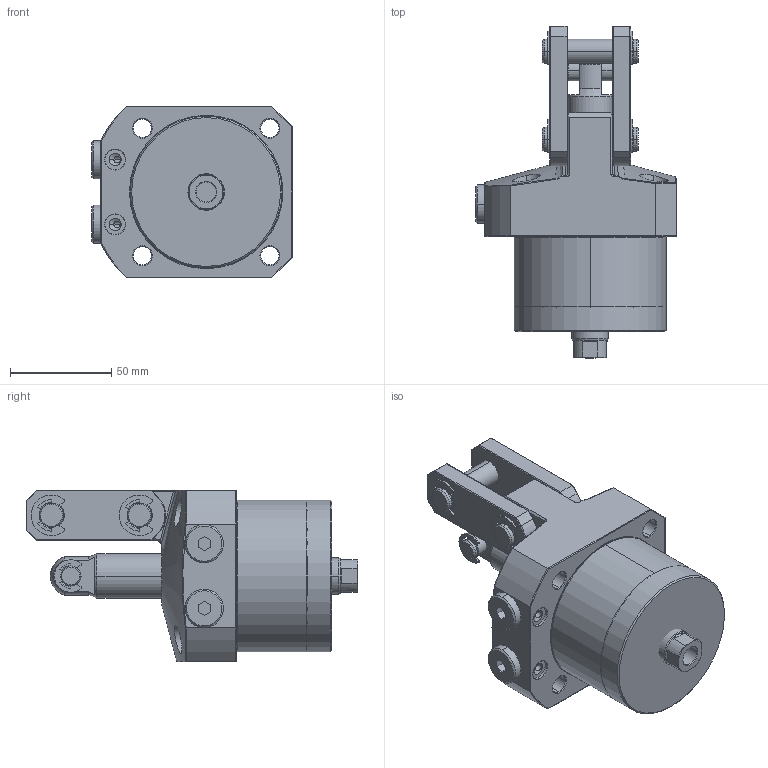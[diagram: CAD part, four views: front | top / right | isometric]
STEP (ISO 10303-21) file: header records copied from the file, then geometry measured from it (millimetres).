
FILE_DESCRIPTION(/* description */ (''),/* implementation_level */ '2;1');
FILE_NAME(/* name */ 'KTPC75-RD.stp',/* time_stamp */ '2022-11-19T08:42:04+08:00',/* author */ (''),/* organization */ (''),/* preprocessor_version */ 'ST-DEVELOPER v16.7',/* originating_system */ 'SIEMENS PLM Software NX 12.0',/* authorisation */ '');
FILE_SCHEMA (('AP203_CONFIGURATION_CONTROLLED_3D_DESIGN_OF_MECHANICAL_PARTS_AND_ASSEMBLIES_MIM_LF { 1 0 10303 403 2 1 2}'));
Length unit declared in the file: millimetre
Products named in the file (10): KTPC75-RD-07; KTPC75-RD-01; KTPC75-RD-03; KTPC75-RD-09; KTPC75-RD-02; KTPC75-RD-08; KTPC75-RD-06; KTPC75-RD-04; KTPC75-RD-05; LKA0750-CRD_step
Assembly tree (16 placements, depth 2):
  LKA0750-CRD_step
    KTPC75-RD-05  x2
    KTPC75-RD-04  x2
    KTPC75-RD-06
    KTPC75-RD-08  x4
    KTPC75-RD-02
    KTPC75-RD-09  x2
    KTPC75-RD-03
    KTPC75-RD-01
    KTPC75-RD-07  x2
Bounding box: 99 x 164 x 85 mm (x, y, z)
Volume: 673042 mm3; surface area: 88419.1 mm2
Topology: 16 solids, 16 shells, 585 faces, 1413 edges, 883 vertices
Faces by surface type: cylinder 268, plane 157, cone 73, torus 68, bspline 17, sphere 2
Full cylindrical faces by diameter (mm): 75 x1
Entity records: 13482 total; most frequent: CARTESIAN_POINT 3391, DIRECTION 1921, ORIENTED_EDGE 1782, EDGE_CURVE 891, AXIS2_PLACEMENT_3D 785, VERTEX_POINT 553, EDGE_LOOP 420, CIRCLE 407
